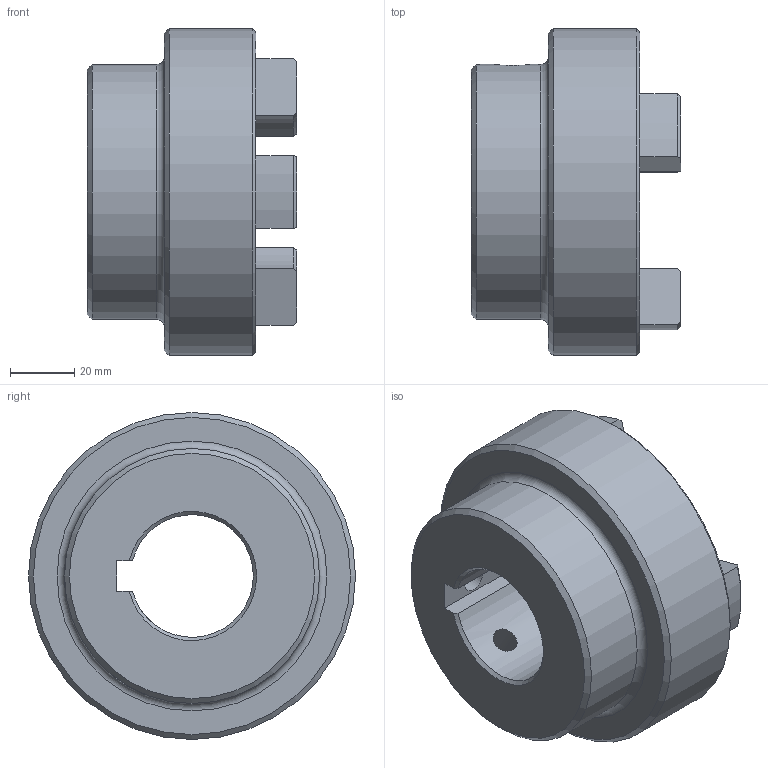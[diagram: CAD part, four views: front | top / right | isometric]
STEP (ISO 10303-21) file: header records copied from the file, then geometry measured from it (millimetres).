
FILE_DESCRIPTION (( 'STEP AP203' ), '1' );
FILE_NAME ('RC4.step', '2024-07-24T17:44:11', ( 'Adlan' ), ( '' ), 'SwSTEP 2.0', 'SolidWorks 2013', '' );
FILE_SCHEMA (( 'CONFIG_CONTROL_DESIGN' ));
Length unit declared in the file: inch
Products named in the file (1): RC4
Bounding box: 65.02 x 101.6 x 101.6 mm (x, y, z)
Volume: 233931.4 mm3; surface area: 41459.3 mm2
Topology: 1 solids, 1 shells, 67 faces, 168 edges, 105 vertices
Faces by surface type: cylinder 26, plane 16, torus 13, cone 12
Full cylindrical faces by diameter (mm): 7.937 x2, 79.248 x1, 101.6 x1
Entity records: 2277 total; most frequent: CARTESIAN_POINT 602, DIRECTION 354, ORIENTED_EDGE 310, EDGE_CURVE 155, AXIS2_PLACEMENT_3D 142, VERTEX_POINT 102, EDGE_LOOP 85, CIRCLE 74
